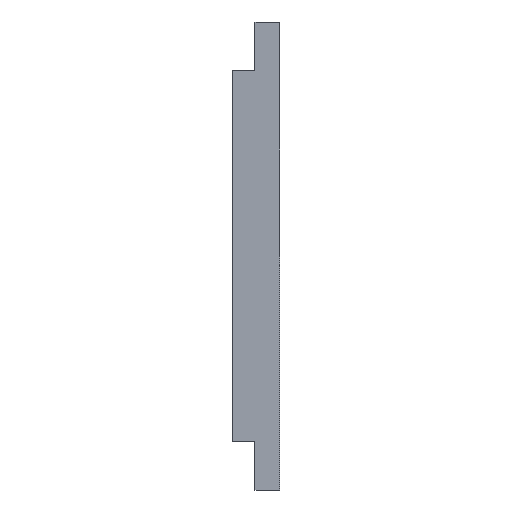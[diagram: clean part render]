
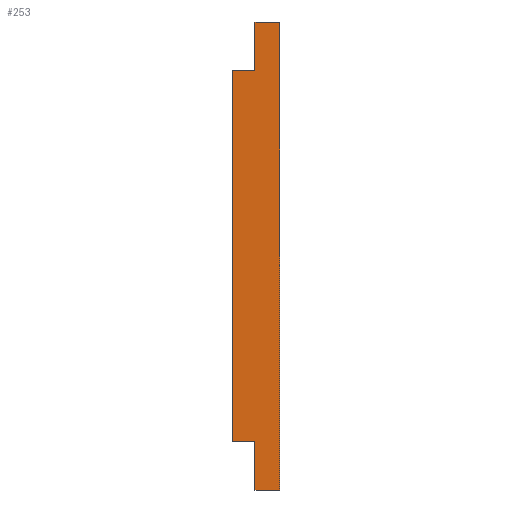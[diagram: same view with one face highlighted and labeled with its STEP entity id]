
A CAD part, left-side view. The second image highlights one B-rep face of the part: STEP entity #253.
In plain terms, the highlighted planar face has unit normal (-1, 0, -0.026).
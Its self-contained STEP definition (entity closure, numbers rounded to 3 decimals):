
#21 = ORIENTED_EDGE ( 'NONE', *, *, #142, .F. ) ;
#61 = ORIENTED_EDGE ( 'NONE', *, *, #556, .T. ) ;
#95 = EDGE_LOOP ( 'NONE', ( #61, #21, #146, #139, #130, #113, #133, #111 ) ) ;
#103 = VERTEX_POINT ( 'NONE', #1128 ) ;
#111 = ORIENTED_EDGE ( 'NONE', *, *, #462, .T. ) ;
#113 = ORIENTED_EDGE ( 'NONE', *, *, #155, .F. ) ;
#130 = ORIENTED_EDGE ( 'NONE', *, *, #493, .F. ) ;
#133 = ORIENTED_EDGE ( 'NONE', *, *, #225, .F. ) ;
#139 = ORIENTED_EDGE ( 'NONE', *, *, #168, .T. ) ;
#142 = EDGE_CURVE ( 'NONE', #414, #559, #1237, .T. ) ;
#146 = ORIENTED_EDGE ( 'NONE', *, *, #413, .F. ) ;
#155 = EDGE_CURVE ( 'NONE', #214, #195, #1220, .T. ) ;
#163 = VERTEX_POINT ( 'NONE', #1258 ) ;
#168 = EDGE_CURVE ( 'NONE', #368, #163, #1257, .T. ) ;
#195 = VERTEX_POINT ( 'NONE', #1331 ) ;
#214 = VERTEX_POINT ( 'NONE', #1405 ) ;
#225 = EDGE_CURVE ( 'NONE', #103, #214, #1490, .T. ) ;
#253 = ADVANCED_FACE ( 'NONE', ( #1575 ), #1584, .F. ) ;
#368 = VERTEX_POINT ( 'NONE', #1815 ) ;
#413 = EDGE_CURVE ( 'NONE', #368, #414, #1893, .T. ) ;
#414 = VERTEX_POINT ( 'NONE', #1895 ) ;
#462 = EDGE_CURVE ( 'NONE', #103, #1581, #2015, .T. ) ;
#493 = EDGE_CURVE ( 'NONE', #195, #163, #2064, .T. ) ;
#556 = EDGE_CURVE ( 'NONE', #1581, #559, #2217, .T. ) ;
#559 = VERTEX_POINT ( 'NONE', #2160 ) ;
#1128 = CARTESIAN_POINT ( 'NONE',  ( 639.147, 6.1, -124.289 ) ) ;
#1208 = CARTESIAN_POINT ( 'NONE',  ( 638.832, -309.994, -112.289 ) ) ;
#1220 = LINE ( 'NONE', #1208, #1280 ) ;
#1234 = DIRECTION ( 'NONE',  ( 0., -1., 0. ) ) ;
#1235 = VECTOR ( 'NONE', #1234, 1000. ) ;
#1236 = CARTESIAN_POINT ( 'NONE',  ( 636.109, 6.1, -8.289 ) ) ;
#1237 = LINE ( 'NONE', #1236, #1235 ) ;
#1251 = CARTESIAN_POINT ( 'NONE',  ( 636.423, -309.994, -20.289 ) ) ;
#1257 = LINE ( 'NONE', #1251, #1306 ) ;
#1258 = CARTESIAN_POINT ( 'NONE',  ( 636.423, 11.7, -20.289 ) ) ;
#1279 = DIRECTION ( 'NONE',  ( 0., 1., 0. ) ) ;
#1280 = VECTOR ( 'NONE', #1279, 1000. ) ;
#1305 = DIRECTION ( 'NONE',  ( 0., 1., 0. ) ) ;
#1306 = VECTOR ( 'NONE', #1305, 1000. ) ;
#1331 = CARTESIAN_POINT ( 'NONE',  ( 638.832, 11.7, -112.289 ) ) ;
#1405 = CARTESIAN_POINT ( 'NONE',  ( 638.832, 6.1, -112.289 ) ) ;
#1490 = LINE ( 'NONE', #1499, #1498 ) ;
#1497 = DIRECTION ( 'NONE',  ( -0.026, 0., 1. ) ) ;
#1498 = VECTOR ( 'NONE', #1497, 1000. ) ;
#1499 = CARTESIAN_POINT ( 'NONE',  ( 637.558, 6.1, -63.606 ) ) ;
#1559 = DIRECTION ( 'NONE',  ( 0.026, 0., -1. ) ) ;
#1560 = DIRECTION ( 'NONE',  ( 1., 0., 0.026 ) ) ;
#1564 = CARTESIAN_POINT ( 'NONE',  ( 637.558, 6.1, -63.606 ) ) ;
#1575 = FACE_OUTER_BOUND ( 'NONE', #95, .T. ) ;
#1581 = VERTEX_POINT ( 'NONE', #3416 ) ;
#1582 = AXIS2_PLACEMENT_3D ( 'NONE', #1564, #1560, #1559 ) ;
#1584 = PLANE ( 'NONE',  #1582 ) ;
#1815 = CARTESIAN_POINT ( 'NONE',  ( 636.423, 6.1, -20.289 ) ) ;
#1890 = DIRECTION ( 'NONE',  ( -0.026, 0., 1. ) ) ;
#1891 = VECTOR ( 'NONE', #1890, 1000. ) ;
#1892 = CARTESIAN_POINT ( 'NONE',  ( 637.558, 6.1, -63.606 ) ) ;
#1893 = LINE ( 'NONE', #1892, #1891 ) ;
#1895 = CARTESIAN_POINT ( 'NONE',  ( 636.109, 6.1, -8.289 ) ) ;
#2004 = DIRECTION ( 'NONE',  ( 0., -1., 0. ) ) ;
#2005 = CARTESIAN_POINT ( 'NONE',  ( 639.147, 6.1, -124.289 ) ) ;
#2009 = VECTOR ( 'NONE', #2004, 1000. ) ;
#2015 = LINE ( 'NONE', #2005, #2009 ) ;
#2063 = CARTESIAN_POINT ( 'NONE',  ( 638.832, 11.7, -112.289 ) ) ;
#2064 = LINE ( 'NONE', #2063, #2121 ) ;
#2120 = DIRECTION ( 'NONE',  ( -0.026, 0., 1. ) ) ;
#2121 = VECTOR ( 'NONE', #2120, 1000. ) ;
#2160 = CARTESIAN_POINT ( 'NONE',  ( 636.109, 0., -8.289 ) ) ;
#2170 = VECTOR ( 'NONE', #2183, 1000. ) ;
#2183 = DIRECTION ( 'NONE',  ( -0.026, 0., 1. ) ) ;
#2214 = CARTESIAN_POINT ( 'NONE',  ( 637.558, 0., -63.606 ) ) ;
#2217 = LINE ( 'NONE', #2214, #2170 ) ;
#3416 = CARTESIAN_POINT ( 'NONE',  ( 639.147, 0., -124.289 ) ) ;
